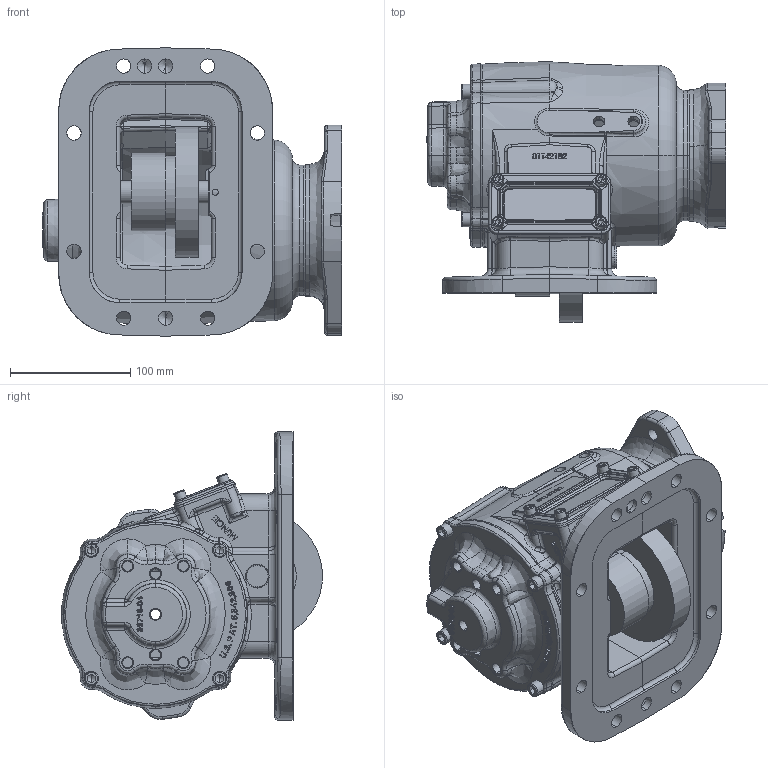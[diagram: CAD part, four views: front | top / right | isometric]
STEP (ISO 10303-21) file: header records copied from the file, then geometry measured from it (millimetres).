
FILE_DESCRIPTION (( 'STEP AP203' ), '1' );
FILE_NAME ('CS8S-XXXXX-X2SX.STEP', '2012-05-31T15:54:16', ( '' ), ( '' ), 'SwSTEP 2.0', 'SolidWorks 2012', '' );
FILE_SCHEMA (( 'CONFIG_CONTROL_DESIGN' ));
Products named in the file (3): CS8S-XXXXX-X2SX; 14t35464; CS8S-XXXXX-X2XX
Assembly tree (2 placements, depth 2):
  CS8S-XXXXX-X2SX
    CS8S-XXXXX-X2XX
    14t35464
Bounding box: 249.19 x 216.55 x 239.61 mm (x, y, z)
Volume: 1868929.3 mm3; surface area: 451575.3 mm2
Topology: 5 solids, 5 shells, 2004 faces, 5061 edges, 3124 vertices
Faces by surface type: bspline 731, plane 535, cylinder 460, cone 194, torus 78, sphere 6
Entity records: 112102 total; most frequent: CARTESIAN_POINT 69065, ORIENTED_EDGE 9980, DIRECTION 7162, EDGE_CURVE 4990, VERTEX_POINT 3124, AXIS2_PLACEMENT_3D 2590, EDGE_LOOP 2220, FACE_OUTER_BOUND 2004
